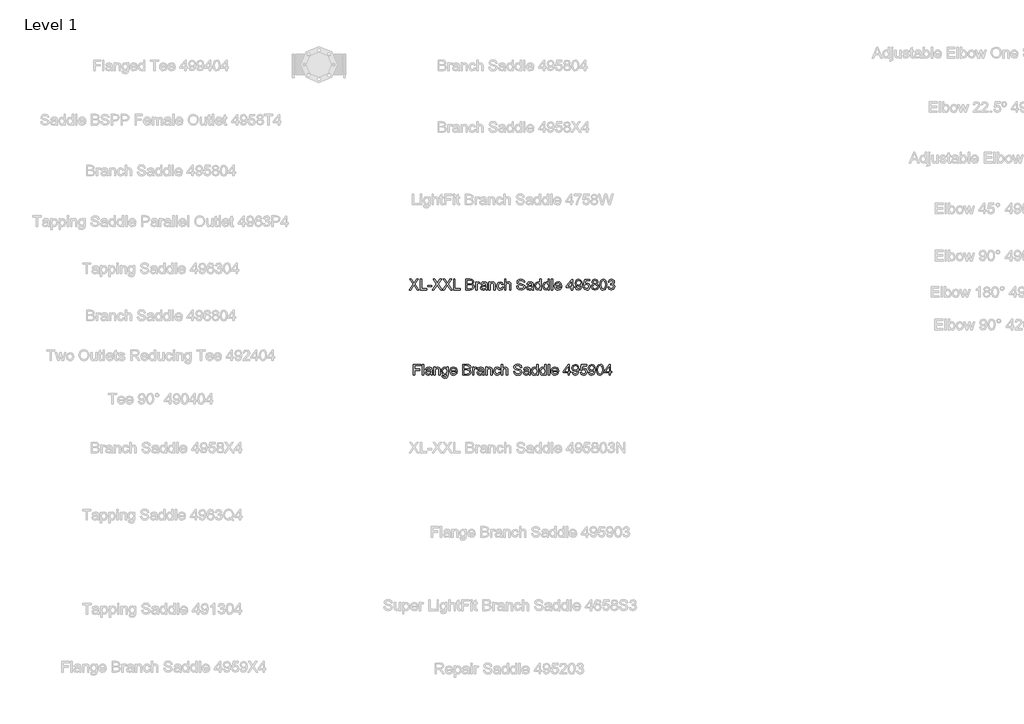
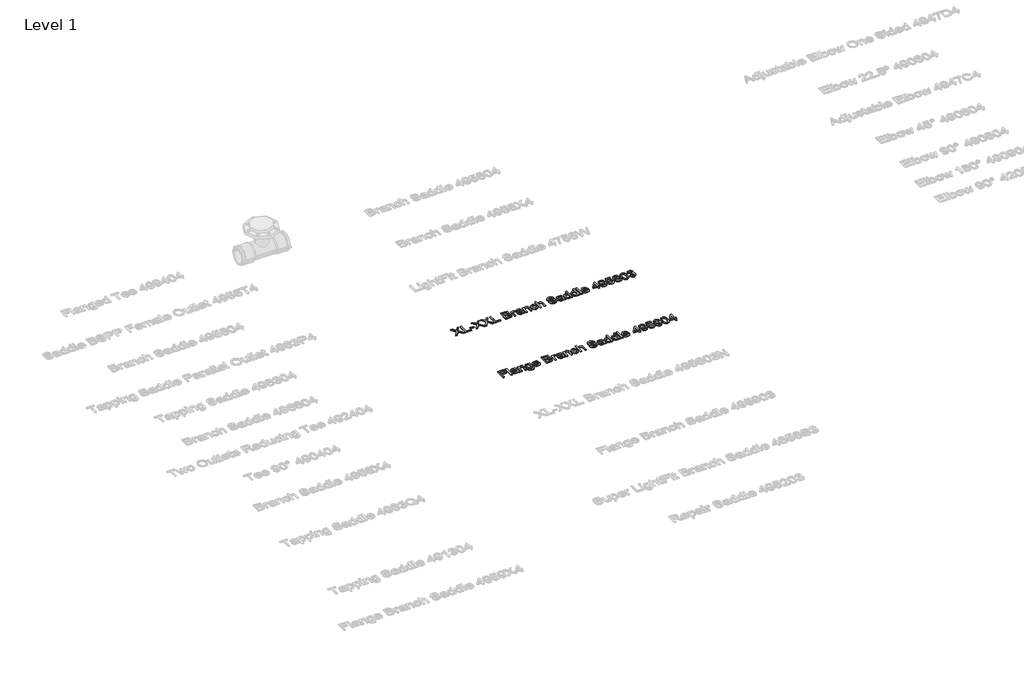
# One storey, part 13 of 41: 2 proxies.
"""IFC4 building model written with IfcOpenShell, lengths in millimetres."""

from ifc_helpers import new_model, si_unit, origin, origin_with_axes, place, context, project, spatial, polyline, outline, extrude, element, save

model = new_model("IFC4")

# Units and contexts
model_context = context("Model", 3, world=origin())
ifc_project = project(units=[si_unit("LENGTHUNIT", "METRE", prefix="MILLI")], contexts=[model_context])

# Site, building, storey
site = spatial("IfcSite", under=ifc_project)
building = spatial("IfcBuilding", under=site)
storey = spatial("IfcBuildingStorey", under=building, Name="Level 1", Elevation=0.0)

# Proxies
placement = place(None, origin())
element("IfcBuildingElementProxy", 1, Name="100 mm Arial", ObjectType="100 mm Arial", at=placement, inside=storey, context=model_context, shape_type="SweptSolid", body=[
    extrude(outline(polyline([(8453.5193072, 3257.5779735), (8453.5193072, 3316.6548966), (8493.2116149, 3316.6548966), (8493.2116149, 3309.2702812), (8460.9039226, 3309.2702812), (8460.9039226, 3291.7318197), (8488.5962303, 3291.7318197), (8488.5962303, 3284.3472043), (8460.9039226, 3284.3472043), (8460.9039226, 3257.5779735), (8453.5193072, 3257.5779735)])), origin_with_axes(), (0.0, 0.0, 1.0), 5.0),
    extrude(outline(polyline([(8502.4423841, 3257.5779735), (8502.4423841, 3316.6548966), (8509.8269995, 3316.6548966), (8509.8269995, 3257.5779735), (8502.4423841, 3257.5779735)])), origin_with_axes(), (0.0, 0.0, 1.0), 5.0),
    extrude(outline(polyline([(8548.5962303, 3263.1164351), (8541.4351726, 3258.1116274), (8533.5241149, 3256.6548966), (8522.8005572, 3260.1597043), (8519.0577687, 3269.1164351), (8520.4712303, 3274.9577812), (8524.1851726, 3279.1981658), (8529.3558456, 3281.6212428), (8535.7452687, 3282.7318197), (8548.552961, 3285.2702812), (8548.5962303, 3286.914512), (8546.5625764, 3292.3664351), (8538.3991149, 3294.5010505), (8530.927961, 3293.0803774), (8527.365461, 3288.039512), (8519.9808456, 3288.9625889), (8523.1755572, 3296.1741274), (8529.6082495, 3300.4000889), (8539.351038, 3301.8856658), (8548.3005572, 3300.5731658), (8553.3558456, 3297.2774928), (8555.6202687, 3292.2654735), (8555.9808456, 3285.8039351), (8555.9808456, 3276.6164351), (8556.3558456, 3263.7871082), (8557.8269995, 3257.5779735), (8550.4423841, 3257.5779735), (8548.5962303, 3263.1164351)]), holes=[polyline([(8548.5962303, 3277.8856658), (8536.6827687, 3275.6212428), (8530.3294033, 3274.4241274), (8527.4519995, 3272.477012), (8526.4423841, 3269.6356658), (8528.6419033, 3265.6404735), (8535.0962303, 3264.039512), (8542.5673841, 3265.8063389), (8547.3846918, 3270.0827812), (8548.552961, 3275.7943197), (8548.5962303, 3277.8856658)])]), origin_with_axes(), (0.0, 0.0, 1.0), 5.0),
    extrude(outline(polyline([(8566.1346918, 3257.5779735), (8566.1346918, 3300.9625889), (8573.5193072, 3300.9625889), (8573.5193072, 3294.9048966), (8579.1659418, 3300.1404735), (8586.8750764, 3301.8856658), (8593.8486341, 3300.4794158), (8598.6082495, 3296.7871082), (8600.8221918, 3291.3568197), (8601.2116149, 3284.2173966), (8601.2116149, 3257.5779735), (8593.8269995, 3257.5779735), (8593.8269995, 3283.2222043), (8592.976038, 3289.7558582), (8589.9688264, 3293.2101851), (8584.8991149, 3294.5010505), (8576.8870956, 3291.602012), (8573.5193072, 3280.5972043), (8573.5193072, 3257.5779735), (8566.1346918, 3257.5779735)])), origin_with_axes(), (0.0, 0.0, 1.0), 5.0),
    extrude(outline(polyline([(8609.5193072, 3253.8856658), (8616.9039226, 3252.9625889), (8619.2981533, 3249.0683582), (8626.4664226, 3247.4241274), (8634.0241149, 3249.2847043), (8637.6298841, 3254.5058582), (8638.1346918, 3263.1164351), (8626.5962303, 3257.5779735), (8618.9826485, 3259.1897524), (8613.3053649, 3264.0250889), (8608.5962303, 3279.4866274), (8610.709211, 3290.9313389), (8616.8245956, 3299.0298966), (8626.2356533, 3301.8856658), (8632.8233937, 3300.2702812), (8638.1346918, 3295.4241274), (8638.1346918, 3300.9625889), (8645.5193072, 3300.9625889), (8645.5193072, 3263.5058582), (8643.5000764, 3249.1621082), (8637.1034418, 3242.4914351), (8626.3221918, 3240.039512), (8614.0409418, 3243.4938389), (8609.5193072, 3253.8856658)]), holes=[polyline([(8615.9808456, 3279.9914351), (8619.132288, 3268.5611466), (8627.0433456, 3264.9625889), (8634.9399803, 3268.539512), (8638.1346918, 3279.7750889), (8634.8462303, 3290.7871082), (8626.927961, 3294.5010505), (8619.1755572, 3290.8448005), (8615.9808456, 3279.9914351)])]), origin_with_axes(), (0.0, 0.0, 1.0), 5.0),
    extrude(outline(polyline([(8686.9712303, 3270.5010505), (8694.2116149, 3269.5779735), (8687.4399803, 3260.0443197), (8674.8269995, 3256.6548966), (8666.162336, 3258.117036), (8659.4952687, 3262.5034543), (8655.2440668, 3269.5292957), (8653.8269995, 3278.9097043), (8655.2584899, 3288.6056178), (8659.552961, 3295.8568197), (8666.1298841, 3300.3784543), (8674.4087303, 3301.8856658), (8682.4297639, 3300.3820601), (8688.8390187, 3295.8712428), (8693.0415428, 3288.6344639), (8694.4423841, 3278.9529735), (8694.3991149, 3276.9625889), (8661.2116149, 3276.9625889), (8665.459211, 3267.3712428), (8674.9712303, 3264.039512), (8682.2116149, 3265.5827812), (8686.9712303, 3270.5010505)]), holes=[polyline([(8661.2116149, 3284.3472043), (8687.0577687, 3284.3472043), (8684.101038, 3291.039512), (8674.3798841, 3294.5010505), (8665.2861341, 3291.7390312), (8661.2116149, 3284.3472043)])]), origin_with_axes(), (0.0, 0.0, 1.0), 5.0),
    extrude(outline(polyline([(8725.8269995, 3257.5779735), (8725.8269995, 3316.6548966), (8748.3702687, 3316.6548966), (8759.4111341, 3314.9169158), (8765.9303649, 3309.5731658), (8768.288538, 3302.0154735), (8766.3053649, 3295.1140312), (8760.3125764, 3289.8856658), (8767.5890187, 3284.3760505), (8770.1346918, 3275.1885505), (8768.396711, 3267.2486466), (8764.0914226, 3261.5948005), (8757.6659418, 3258.5948005), (8748.1971918, 3257.5779735), (8725.8269995, 3257.5779735)]), holes=[polyline([(8733.2116149, 3264.9625889), (8748.3558456, 3264.9625889), (8753.8366149, 3265.2510505), (8758.4736341, 3266.8592235), (8761.5457495, 3270.1404735), (8762.7500764, 3275.1164351), (8761.3366149, 3280.8568197), (8756.757288, 3284.2823005), (8747.6346918, 3285.2702812), (8733.2116149, 3285.2702812), (8733.2116149, 3264.9625889)]), polyline([(8733.2116149, 3292.6548966), (8746.6971918, 3292.6548966), (8754.5721918, 3293.289512), (8759.3101726, 3296.0226851), (8760.9039226, 3300.8327812), (8759.4183456, 3305.6500889), (8755.163538, 3308.4986466), (8745.6731533, 3309.2702812), (8733.2116149, 3309.2702812), (8733.2116149, 3292.6548966)])]), origin_with_axes(), (0.0, 0.0, 1.0), 5.0),
    extrude(outline(polyline([(8779.365461, 3257.5779735), (8779.365461, 3300.9625889), (8785.8269995, 3300.9625889), (8785.8269995, 3294.5443197), (8790.413538, 3300.4577812), (8795.0289226, 3301.8856658), (8802.4423841, 3299.6068197), (8799.976038, 3292.9866274), (8794.7837303, 3294.5010505), (8790.6082495, 3293.0443197), (8787.9471918, 3289.0058582), (8786.7500764, 3280.3808582), (8786.7500764, 3257.5779735), (8779.365461, 3257.5779735)])), origin_with_axes(), (0.0, 0.0, 1.0), 5.0),
    extrude(outline(polyline([(8834.7500764, 3263.1164351), (8827.5890187, 3258.1116274), (8819.677961, 3256.6548966), (8808.9544033, 3260.1597043), (8805.2116149, 3269.1164351), (8806.6250764, 3274.9577812), (8810.3390187, 3279.1981658), (8815.5096918, 3281.6212428), (8821.8991149, 3282.7318197), (8834.7068072, 3285.2702812), (8834.7500764, 3286.914512), (8832.7164226, 3292.3664351), (8824.552961, 3294.5010505), (8817.0818072, 3293.0803774), (8813.5193072, 3288.039512), (8806.1346918, 3288.9625889), (8809.3294033, 3296.1741274), (8815.7620956, 3300.4000889), (8825.5048841, 3301.8856658), (8834.4544033, 3300.5731658), (8839.5096918, 3297.2774928), (8841.7741149, 3292.2654735), (8842.1346918, 3285.8039351), (8842.1346918, 3276.6164351), (8842.5096918, 3263.7871082), (8843.9808456, 3257.5779735), (8836.5962303, 3257.5779735), (8834.7500764, 3263.1164351)]), holes=[polyline([(8834.7500764, 3277.8856658), (8822.8366149, 3275.6212428), (8816.4832495, 3274.4241274), (8813.6058456, 3272.477012), (8812.5962303, 3269.6356658), (8814.7957495, 3265.6404735), (8821.2500764, 3264.039512), (8828.7212303, 3265.8063389), (8833.538538, 3270.0827812), (8834.7068072, 3275.7943197), (8834.7500764, 3277.8856658)])]), origin_with_axes(), (0.0, 0.0, 1.0), 5.0),
    extrude(outline(polyline([(8852.288538, 3257.5779735), (8852.288538, 3300.9625889), (8859.6731533, 3300.9625889), (8859.6731533, 3294.9048966), (8865.319788, 3300.1404735), (8873.0289226, 3301.8856658), (8880.0024803, 3300.4794158), (8884.7620956, 3296.7871082), (8886.976038, 3291.3568197), (8887.365461, 3284.2173966), (8887.365461, 3257.5779735), (8879.9808456, 3257.5779735), (8879.9808456, 3283.2222043), (8879.1298841, 3289.7558582), (8876.1226726, 3293.2101851), (8871.052961, 3294.5010505), (8863.0409418, 3291.602012), (8859.6731533, 3280.5972043), (8859.6731533, 3257.5779735), (8852.288538, 3257.5779735)])), origin_with_axes(), (0.0, 0.0, 1.0), 5.0),
    extrude(outline(polyline([(8925.2116149, 3273.2702812), (8932.5962303, 3272.3472043), (8926.6683456, 3260.8159543), (8914.9568072, 3256.6548966), (8907.1016389, 3258.1062187), (8900.959211, 3262.4601851), (8896.9946678, 3269.5256899), (8895.6731533, 3279.1116274), (8897.9303649, 3291.3784543), (8904.8101726, 3299.2606658), (8914.8558456, 3301.8856658), (8926.084211, 3298.2798966), (8931.6731533, 3288.039512), (8924.288538, 3287.1164351), (8920.8630572, 3292.6476851), (8914.913538, 3294.5010505), (8906.3534418, 3290.852012), (8903.0577687, 3279.3135505), (8906.2813264, 3267.6669158), (8914.7116149, 3264.039512), (8921.6707495, 3266.3039351), (8925.2116149, 3273.2702812)])), origin_with_axes(), (0.0, 0.0, 1.0), 5.0),
    extrude(outline(polyline([(8939.0577687, 3257.5779735), (8939.0577687, 3316.6548966), (8946.4423841, 3316.6548966), (8946.4423841, 3294.9337428), (8952.2007976, 3300.1476851), (8959.2933456, 3301.8856658), (8967.5866149, 3299.9890312), (8972.6202687, 3294.7462428), (8974.1346918, 3285.039512), (8974.1346918, 3257.5779735), (8966.7500764, 3257.5779735), (8966.7500764, 3284.2750889), (8964.3991149, 3292.0635505), (8957.7356533, 3294.5010505), (8951.6851726, 3292.8568197), (8947.646711, 3288.4000889), (8946.4423841, 3280.6260505), (8946.4423841, 3257.5779735), (8939.0577687, 3257.5779735)])), origin_with_axes(), (0.0, 0.0, 1.0), 5.0),
    extrude(outline(polyline([(9005.5193072, 3277.8856658), (9012.9039226, 3277.8856658), (9015.2837303, 3270.4938389), (9021.0962303, 3265.820762), (9029.9519995, 3264.039512), (9037.6683456, 3265.3880697), (9042.6515187, 3269.0948005), (9044.288538, 3274.0491274), (9043.0625764, 3278.6573005), (9038.0433456, 3282.0106658), (9027.2909418, 3284.8303774), (9015.7164226, 3288.4722043), (9009.4351726, 3293.9673966), (9007.365461, 3301.3087428), (9009.9255572, 3309.6669158), (9017.4039226, 3315.5659543), (9028.351038, 3317.5779735), (9040.0337303, 3315.4722043), (9047.8221918, 3309.2847043), (9050.7500764, 3300.039512), (9043.365461, 3300.039512), (9039.1827687, 3307.6260505), (9028.6394995, 3310.1933582), (9018.0673841, 3307.6548966), (9014.7500764, 3301.5250889), (9017.101038, 3296.4048966), (9029.1587303, 3292.2798966), (9042.226038, 3288.5731658), (9049.3726726, 3282.5875889), (9051.6731533, 3274.2366274), (9049.0265187, 3265.4024928), (9041.4111341, 3258.9553774), (9030.240461, 3256.6548966), (9017.0505572, 3259.1356658), (9008.7068072, 3266.6068197), (9005.5193072, 3277.8856658)])), origin_with_axes(), (0.0, 0.0, 1.0), 5.0),
    extrude(outline(polyline([(9089.5193072, 3263.1164351), (9082.3582495, 3258.1116274), (9074.4471918, 3256.6548966), (9063.7236341, 3260.1597043), (9059.9808456, 3269.1164351), (9061.3943072, 3274.9577812), (9065.1082495, 3279.1981658), (9070.2789226, 3281.6212428), (9076.6683456, 3282.7318197), (9089.476038, 3285.2702812), (9089.5193072, 3286.914512), (9087.4856533, 3292.3664351), (9079.3221918, 3294.5010505), (9071.851038, 3293.0803774), (9068.288538, 3288.039512), (9060.9039226, 3288.9625889), (9064.0986341, 3296.1741274), (9070.5313264, 3300.4000889), (9080.2741149, 3301.8856658), (9089.2236341, 3300.5731658), (9094.2789226, 3297.2774928), (9096.5433456, 3292.2654735), (9096.9039226, 3285.8039351), (9096.9039226, 3276.6164351), (9097.2789226, 3263.7871082), (9098.7500764, 3257.5779735), (9091.365461, 3257.5779735), (9089.5193072, 3263.1164351)]), holes=[polyline([(9089.5193072, 3277.8856658), (9077.6058456, 3275.6212428), (9071.2524803, 3274.4241274), (9068.3750764, 3272.477012), (9067.365461, 3269.6356658), (9069.5649803, 3265.6404735), (9076.0193072, 3264.039512), (9083.490461, 3265.8063389), (9088.3077687, 3270.0827812), (9089.476038, 3275.7943197), (9089.5193072, 3277.8856658)])]), origin_with_axes(), (0.0, 0.0, 1.0), 5.0),
    extrude(outline(polyline([(9133.8269995, 3257.5779735), (9133.8269995, 3264.5443197), (9128.9411822, 3258.6272524), (9122.1875764, 3256.6548966), (9113.0433456, 3259.5106658), (9106.5818072, 3267.4794158), (9104.288538, 3279.227012), (9106.4015187, 3290.9818197), (9112.7332495, 3299.0731658), (9122.1587303, 3301.8856658), (9128.9664226, 3299.8736466), (9133.8269995, 3294.6452812), (9133.8269995, 3316.6548966), (9141.2116149, 3316.6548966), (9141.2116149, 3257.5779735), (9133.8269995, 3257.5779735)]), holes=[polyline([(9111.6731533, 3279.2558582), (9115.0048841, 3267.8255697), (9122.865461, 3264.039512), (9130.632288, 3267.6524928), (9133.8269995, 3278.6933582), (9130.5745956, 3290.6789351), (9122.5625764, 3294.5010505), (9114.788538, 3290.8303774), (9111.6731533, 3279.2558582)])]), origin_with_axes(), (0.0, 0.0, 1.0), 5.0),
    extrude(outline(polyline([(9179.0577687, 3257.5779735), (9179.0577687, 3264.5443197), (9174.1719514, 3258.6272524), (9167.4183456, 3256.6548966), (9158.2741149, 3259.5106658), (9151.8125764, 3267.4794158), (9149.5193072, 3279.227012), (9151.632288, 3290.9818197), (9157.9640187, 3299.0731658), (9167.3894995, 3301.8856658), (9174.1971918, 3299.8736466), (9179.0577687, 3294.6452812), (9179.0577687, 3316.6548966), (9186.4423841, 3316.6548966), (9186.4423841, 3257.5779735), (9179.0577687, 3257.5779735)]), holes=[polyline([(9156.9039226, 3279.2558582), (9160.2356533, 3267.8255697), (9168.0962303, 3264.039512), (9175.8630572, 3267.6524928), (9179.0577687, 3278.6933582), (9175.8053649, 3290.6789351), (9167.7933456, 3294.5010505), (9160.0193072, 3290.8303774), (9156.9039226, 3279.2558582)])]), origin_with_axes(), (0.0, 0.0, 1.0), 5.0),
    extrude(outline(polyline([(9197.5193072, 3257.5779735), (9197.5193072, 3316.6548966), (9204.9039226, 3316.6548966), (9204.9039226, 3257.5779735), (9197.5193072, 3257.5779735)])), origin_with_axes(), (0.0, 0.0, 1.0), 5.0),
    extrude(outline(polyline([(9246.3558456, 3270.5010505), (9253.5962303, 3269.5779735), (9246.8245956, 3260.0443197), (9234.2116149, 3256.6548966), (9225.5469514, 3258.117036), (9218.8798841, 3262.5034543), (9214.6286822, 3269.5292957), (9213.2116149, 3278.9097043), (9214.6431053, 3288.6056178), (9218.9375764, 3295.8568197), (9225.5144995, 3300.3784543), (9233.7933456, 3301.8856658), (9241.8143793, 3300.3820601), (9248.2236341, 3295.8712428), (9252.4261581, 3288.6344639), (9253.8269995, 3278.9529735), (9253.7837303, 3276.9625889), (9220.5962303, 3276.9625889), (9224.8438264, 3267.3712428), (9234.3558456, 3264.039512), (9241.5962303, 3265.5827812), (9246.3558456, 3270.5010505)]), holes=[polyline([(9220.5962303, 3284.3472043), (9246.4423841, 3284.3472043), (9243.4856533, 3291.039512), (9233.7644995, 3294.5010505), (9224.6707495, 3291.7390312), (9220.5962303, 3284.3472043)])]), origin_with_axes(), (0.0, 0.0, 1.0), 5.0),
    extrude(outline(polyline([(9306.4423841, 3257.5779735), (9306.4423841, 3271.4241274), (9279.6731533, 3271.4241274), (9279.6731533, 3278.8087428), (9308.288538, 3315.7318197), (9313.8269995, 3315.7318197), (9313.8269995, 3278.8087428), (9321.2116149, 3278.8087428), (9321.2116149, 3271.4241274), (9313.8269995, 3271.4241274), (9313.8269995, 3257.5779735), (9306.4423841, 3257.5779735)]), holes=[polyline([(9306.4423841, 3278.8087428), (9306.4423841, 3301.6260505), (9288.7596918, 3278.8087428), (9306.4423841, 3278.8087428)])]), origin_with_axes(), (0.0, 0.0, 1.0), 5.0),
    extrude(outline(polyline([(9328.5962303, 3272.3472043), (9335.9808456, 3273.2702812), (9339.2981533, 3266.2246082), (9345.5866149, 3264.039512), (9351.5649803, 3265.445762), (9355.6178649, 3269.2029735), (9358.0337303, 3275.6212428), (9359.101038, 3284.1885505), (9353.1515187, 3280.0347043), (9345.052961, 3277.8856658), (9332.7140187, 3283.1356658), (9327.6731533, 3296.9673966), (9332.959211, 3311.2462428), (9346.2068072, 3316.6548966), (9356.7284418, 3313.5683582), (9363.9688264, 3304.7702812), (9366.4423841, 3288.2414351), (9363.976038, 3270.3063389), (9356.6419033, 3260.1452812), (9345.240461, 3256.6548966), (9333.8894995, 3260.7726851), (9328.5962303, 3272.3472043)]), holes=[polyline([(9359.0577687, 3297.1404735), (9355.8702687, 3305.9962428), (9347.4039226, 3309.2702812), (9338.5193072, 3305.7438389), (9335.0577687, 3296.6068197), (9338.3318072, 3288.4217235), (9347.2019995, 3285.2702812), (9355.7188264, 3288.4217235), (9359.0577687, 3297.1404735)])]), origin_with_axes(), (0.0, 0.0, 1.0), 5.0),
    extrude(outline(polyline([(9372.9039226, 3273.2702812), (9380.288538, 3274.1933582), (9384.0096918, 3266.5851851), (9391.726038, 3264.039512), (9400.9856533, 3267.5803774), (9404.288538, 3276.977012), (9401.194788, 3285.7462428), (9391.8414226, 3288.9625889), (9385.3582495, 3287.6789351), (9381.2116149, 3284.3472043), (9373.8269995, 3285.2702812), (9380.288538, 3315.7318197), (9408.9039226, 3315.7318197), (9408.9039226, 3308.3472043), (9386.2596918, 3308.3472043), (9383.101038, 3292.0779735), (9393.9039226, 3296.3472043), (9406.5313264, 3291.0539351), (9411.6731533, 3277.4385505), (9407.0433456, 3263.7366274), (9400.3943072, 3258.4253293), (9391.6971918, 3256.6548966), (9378.6659418, 3261.2053774), (9372.9039226, 3273.2702812)])), origin_with_axes(), (0.0, 0.0, 1.0), 5.0),
    extrude(outline(polyline([(9419.0577687, 3272.3472043), (9426.4423841, 3273.2702812), (9429.7596918, 3266.2246082), (9436.0481533, 3264.039512), (9442.0265187, 3265.445762), (9446.0794033, 3269.2029735), (9448.4952687, 3275.6212428), (9449.5625764, 3284.1885505), (9443.6130572, 3280.0347043), (9435.5144995, 3277.8856658), (9423.1755572, 3283.1356658), (9418.1346918, 3296.9673966), (9423.4207495, 3311.2462428), (9436.6683456, 3316.6548966), (9447.1899803, 3313.5683582), (9454.4303649, 3304.7702812), (9456.9039226, 3288.2414351), (9454.4375764, 3270.3063389), (9447.1034418, 3260.1452812), (9435.7019995, 3256.6548966), (9424.351038, 3260.7726851), (9419.0577687, 3272.3472043)]), holes=[polyline([(9449.5193072, 3297.1404735), (9446.3318072, 3305.9962428), (9437.865461, 3309.2702812), (9428.9808456, 3305.7438389), (9425.5193072, 3296.6068197), (9428.7933456, 3288.4217235), (9437.663538, 3285.2702812), (9446.1803649, 3288.4217235), (9449.5193072, 3297.1404735)])]), origin_with_axes(), (0.0, 0.0, 1.0), 5.0),
    extrude(outline(polyline([(9463.365461, 3286.6404735), (9465.5361341, 3303.6380697), (9471.9832495, 3313.4385505), (9482.7500764, 3316.6548966), (9491.3750764, 3314.7510505), (9497.3318072, 3309.2630697), (9500.7933456, 3300.5226851), (9502.1346918, 3286.6404735), (9499.9856533, 3269.7149928), (9493.5601726, 3259.8928774), (9482.7500764, 3256.6548966), (9475.0769995, 3258.0611466), (9469.2500764, 3262.2798966), (9464.8366149, 3272.2714832), (9463.365461, 3286.6404735)]), holes=[polyline([(9470.7500764, 3286.6548966), (9474.2116149, 3268.3159543), (9482.7500764, 3264.039512), (9491.288538, 3268.3303774), (9494.7500764, 3286.6548966), (9491.4039226, 3304.7847043), (9482.663538, 3309.2702812), (9474.3269995, 3305.3183582), (9470.7500764, 3286.6548966)])]), origin_with_axes(), (0.0, 0.0, 1.0), 5.0),
    extrude(outline(polyline([(9532.5962303, 3257.5779735), (9532.5962303, 3271.4241274), (9505.8269995, 3271.4241274), (9505.8269995, 3278.8087428), (9534.4423841, 3315.7318197), (9539.9808456, 3315.7318197), (9539.9808456, 3278.8087428), (9547.365461, 3278.8087428), (9547.365461, 3271.4241274), (9539.9808456, 3271.4241274), (9539.9808456, 3257.5779735), (9532.5962303, 3257.5779735)]), holes=[polyline([(9532.5962303, 3278.8087428), (9532.5962303, 3301.6260505), (9514.913538, 3278.8087428), (9532.5962303, 3278.8087428)])]), origin_with_axes(), (0.0, 0.0, 1.0), 5.0),
])
element("IfcBuildingElementProxy", 2, Name="100 mm Arial", ObjectType="100 mm Arial", at=placement, inside=storey, context=model_context, shape_type="SweptSolid", body=[
    extrude(outline(polyline([(8429.5193072, 3727.5779735), (8452.2933456, 3759.7702812), (8433.2116149, 3786.6548966), (8442.0673841, 3786.6548966), (8452.8125764, 3771.5250889), (8456.4327687, 3765.6260505), (8460.6731533, 3771.6260505), (8471.302961, 3786.6548966), (8480.288538, 3786.6548966), (8461.2068072, 3759.6837428), (8483.9808456, 3727.5779735), (8475.1250764, 3727.5779735), (8459.9519995, 3748.9818197), (8456.7933456, 3753.4241274), (8453.3173841, 3748.5491274), (8438.5048841, 3727.5779735), (8429.5193072, 3727.5779735)])), origin_with_axes(), (0.0, 0.0, 1.0), 5.0),
    extrude(outline(polyline([(8491.365461, 3727.5779735), (8491.365461, 3786.6548966), (8498.7500764, 3786.6548966), (8498.7500764, 3734.9625889), (8528.288538, 3734.9625889), (8528.288538, 3727.5779735), (8491.365461, 3727.5779735)])), origin_with_axes(), (0.0, 0.0, 1.0), 5.0),
    extrude(outline(polyline([(8531.9808456, 3745.1164351), (8531.9808456, 3752.5010505), (8555.0577687, 3752.5010505), (8555.0577687, 3745.1164351), (8531.9808456, 3745.1164351)])), origin_with_axes(), (0.0, 0.0, 1.0), 5.0),
    extrude(outline(polyline([(8557.8269995, 3727.5779735), (8580.601038, 3759.7702812), (8561.5193072, 3786.6548966), (8570.3750764, 3786.6548966), (8581.1202687, 3771.5250889), (8584.740461, 3765.6260505), (8588.9808456, 3771.6260505), (8599.6106533, 3786.6548966), (8608.5962303, 3786.6548966), (8589.5144995, 3759.6837428), (8612.288538, 3727.5779735), (8603.4327687, 3727.5779735), (8588.2596918, 3748.9818197), (8585.101038, 3753.4241274), (8581.6250764, 3748.5491274), (8566.8125764, 3727.5779735), (8557.8269995, 3727.5779735)])), origin_with_axes(), (0.0, 0.0, 1.0), 5.0),
    extrude(outline(polyline([(8613.2116149, 3727.5779735), (8635.9856533, 3759.7702812), (8616.9039226, 3786.6548966), (8625.7596918, 3786.6548966), (8636.5048841, 3771.5250889), (8640.1250764, 3765.6260505), (8644.365461, 3771.6260505), (8654.9952687, 3786.6548966), (8663.9808456, 3786.6548966), (8644.8991149, 3759.6837428), (8667.6731533, 3727.5779735), (8658.8173841, 3727.5779735), (8643.6443072, 3748.9818197), (8640.4856533, 3753.4241274), (8637.0096918, 3748.5491274), (8622.1971918, 3727.5779735), (8613.2116149, 3727.5779735)])), origin_with_axes(), (0.0, 0.0, 1.0), 5.0),
    extrude(outline(polyline([(8675.0577687, 3727.5779735), (8675.0577687, 3786.6548966), (8682.4423841, 3786.6548966), (8682.4423841, 3734.9625889), (8711.9808456, 3734.9625889), (8711.9808456, 3727.5779735), (8675.0577687, 3727.5779735)])), origin_with_axes(), (0.0, 0.0, 1.0), 5.0),
    extrude(outline(polyline([(8743.365461, 3727.5779735), (8743.365461, 3786.6548966), (8765.9087303, 3786.6548966), (8776.9495956, 3784.9169158), (8783.4688264, 3779.5731658), (8785.8269995, 3772.0154735), (8783.8438264, 3765.1140312), (8777.851038, 3759.8856658), (8785.1274803, 3754.3760505), (8787.6731533, 3745.1885505), (8785.9351726, 3737.2486466), (8781.6298841, 3731.5948005), (8775.2044033, 3728.5948005), (8765.7356533, 3727.5779735), (8743.365461, 3727.5779735)]), holes=[polyline([(8750.7500764, 3762.6548966), (8764.2356533, 3762.6548966), (8772.1106533, 3763.289512), (8776.8486341, 3766.0226851), (8778.4423841, 3770.8327812), (8776.9568072, 3775.6500889), (8772.7019995, 3778.4986466), (8763.2116149, 3779.2702812), (8750.7500764, 3779.2702812), (8750.7500764, 3762.6548966)]), polyline([(8750.7500764, 3734.9625889), (8765.8943072, 3734.9625889), (8771.3750764, 3735.2510505), (8776.0120956, 3736.8592235), (8779.084211, 3740.1404735), (8780.288538, 3745.1164351), (8778.8750764, 3750.8568197), (8774.2957495, 3754.2823005), (8765.1731533, 3755.2702812), (8750.7500764, 3755.2702812), (8750.7500764, 3734.9625889)])]), origin_with_axes(), (0.0, 0.0, 1.0), 5.0),
    extrude(outline(polyline([(8796.9039226, 3727.5779735), (8796.9039226, 3770.9625889), (8803.365461, 3770.9625889), (8803.365461, 3764.5443197), (8807.9519995, 3770.4577812), (8812.5673841, 3771.8856658), (8819.9808456, 3769.6068197), (8817.5144995, 3762.9866274), (8812.3221918, 3764.5010505), (8808.146711, 3763.0443197), (8805.4856533, 3759.0058582), (8804.288538, 3750.3808582), (8804.288538, 3727.5779735), (8796.9039226, 3727.5779735)])), origin_with_axes(), (0.0, 0.0, 1.0), 5.0),
    extrude(outline(polyline([(8852.288538, 3733.1164351), (8845.1274803, 3728.1116274), (8837.2164226, 3726.6548966), (8826.4928649, 3730.1597043), (8822.7500764, 3739.1164351), (8824.163538, 3744.9577812), (8827.8774803, 3749.1981658), (8833.0481533, 3751.6212428), (8839.4375764, 3752.7318197), (8852.2452687, 3755.2702812), (8852.288538, 3756.914512), (8850.2548841, 3762.3664351), (8842.0914226, 3764.5010505), (8834.6202687, 3763.0803774), (8831.0577687, 3758.039512), (8823.6731533, 3758.9625889), (8826.8678649, 3766.1741274), (8833.3005572, 3770.4000889), (8843.0433456, 3771.8856658), (8851.9928649, 3770.5731658), (8857.0481533, 3767.2774928), (8859.3125764, 3762.2654735), (8859.6731533, 3755.8039351), (8859.6731533, 3746.6164351), (8860.0481533, 3733.7871082), (8861.5193072, 3727.5779735), (8854.1346918, 3727.5779735), (8852.288538, 3733.1164351)]), holes=[polyline([(8852.288538, 3747.8856658), (8840.3750764, 3745.6212428), (8834.021711, 3744.4241274), (8831.1443072, 3742.477012), (8830.1346918, 3739.6356658), (8832.334211, 3735.6404735), (8838.788538, 3734.039512), (8846.2596918, 3735.8063389), (8851.0769995, 3740.0827812), (8852.2452687, 3745.7943197), (8852.288538, 3747.8856658)])]), origin_with_axes(), (0.0, 0.0, 1.0), 5.0),
    extrude(outline(polyline([(8869.8269995, 3727.5779735), (8869.8269995, 3770.9625889), (8877.2116149, 3770.9625889), (8877.2116149, 3764.9048966), (8882.8582495, 3770.1404735), (8890.5673841, 3771.8856658), (8897.5409418, 3770.4794158), (8902.3005572, 3766.7871082), (8904.5144995, 3761.3568197), (8904.9039226, 3754.2173966), (8904.9039226, 3727.5779735), (8897.5193072, 3727.5779735), (8897.5193072, 3753.2222043), (8896.6683456, 3759.7558582), (8893.6611341, 3763.2101851), (8888.5914226, 3764.5010505), (8880.5794033, 3761.602012), (8877.2116149, 3750.5972043), (8877.2116149, 3727.5779735), (8869.8269995, 3727.5779735)])), origin_with_axes(), (0.0, 0.0, 1.0), 5.0),
    extrude(outline(polyline([(8942.7500764, 3743.2702812), (8950.1346918, 3742.3472043), (8944.2068072, 3730.8159543), (8932.4952687, 3726.6548966), (8924.6401005, 3728.1062187), (8918.4976726, 3732.4601851), (8914.5331293, 3739.5256899), (8913.2116149, 3749.1116274), (8915.4688264, 3761.3784543), (8922.3486341, 3769.2606658), (8932.3943072, 3771.8856658), (8943.6226726, 3768.2798966), (8949.2116149, 3758.039512), (8941.8269995, 3757.1164351), (8938.4015187, 3762.6476851), (8932.4519995, 3764.5010505), (8923.8919033, 3760.852012), (8920.5962303, 3749.3135505), (8923.819788, 3737.6669158), (8932.2500764, 3734.039512), (8939.209211, 3736.3039351), (8942.7500764, 3743.2702812)])), origin_with_axes(), (0.0, 0.0, 1.0), 5.0),
    extrude(outline(polyline([(8956.5962303, 3727.5779735), (8956.5962303, 3786.6548966), (8963.9808456, 3786.6548966), (8963.9808456, 3764.9337428), (8969.7392591, 3770.1476851), (8976.8318072, 3771.8856658), (8985.1250764, 3769.9890312), (8990.1587303, 3764.7462428), (8991.6731533, 3755.039512), (8991.6731533, 3727.5779735), (8984.288538, 3727.5779735), (8984.288538, 3754.2750889), (8981.9375764, 3762.0635505), (8975.2741149, 3764.5010505), (8969.2236341, 3762.8568197), (8965.1851726, 3758.4000889), (8963.9808456, 3750.6260505), (8963.9808456, 3727.5779735), (8956.5962303, 3727.5779735)])), origin_with_axes(), (0.0, 0.0, 1.0), 5.0),
    extrude(outline(polyline([(9023.0577687, 3747.8856658), (9030.4423841, 3747.8856658), (9032.8221918, 3740.4938389), (9038.6346918, 3735.820762), (9047.490461, 3734.039512), (9055.2068072, 3735.3880697), (9060.1899803, 3739.0948005), (9061.8269995, 3744.0491274), (9060.601038, 3748.6573005), (9055.5818072, 3752.0106658), (9044.8294033, 3754.8303774), (9033.2548841, 3758.4722043), (9026.9736341, 3763.9673966), (9024.9039226, 3771.3087428), (9027.4640187, 3779.6669158), (9034.9423841, 3785.5659543), (9045.8894995, 3787.5779735), (9057.5721918, 3785.4722043), (9065.3606533, 3779.2847043), (9068.288538, 3770.039512), (9060.9039226, 3770.039512), (9056.7212303, 3777.6260505), (9046.177961, 3780.1933582), (9035.6058456, 3777.6548966), (9032.288538, 3771.5250889), (9034.6394995, 3766.4048966), (9046.6971918, 3762.2798966), (9059.7644995, 3758.5731658), (9066.9111341, 3752.5875889), (9069.2116149, 3744.2366274), (9066.5649803, 3735.4024928), (9058.9495956, 3728.9553774), (9047.7789226, 3726.6548966), (9034.5890187, 3729.1356658), (9026.2452687, 3736.6068197), (9023.0577687, 3747.8856658)])), origin_with_axes(), (0.0, 0.0, 1.0), 5.0),
    extrude(outline(polyline([(9107.0577687, 3733.1164351), (9099.896711, 3728.1116274), (9091.9856533, 3726.6548966), (9081.2620956, 3730.1597043), (9077.5193072, 3739.1164351), (9078.9327687, 3744.9577812), (9082.646711, 3749.1981658), (9087.8173841, 3751.6212428), (9094.2068072, 3752.7318197), (9107.0144995, 3755.2702812), (9107.0577687, 3756.914512), (9105.0241149, 3762.3664351), (9096.8606533, 3764.5010505), (9089.3894995, 3763.0803774), (9085.8269995, 3758.039512), (9078.4423841, 3758.9625889), (9081.6370956, 3766.1741274), (9088.069788, 3770.4000889), (9097.8125764, 3771.8856658), (9106.7620956, 3770.5731658), (9111.8173841, 3767.2774928), (9114.0818072, 3762.2654735), (9114.4423841, 3755.8039351), (9114.4423841, 3746.6164351), (9114.8173841, 3733.7871082), (9116.288538, 3727.5779735), (9108.9039226, 3727.5779735), (9107.0577687, 3733.1164351)]), holes=[polyline([(9107.0577687, 3747.8856658), (9095.1443072, 3745.6212428), (9088.7909418, 3744.4241274), (9085.913538, 3742.477012), (9084.9039226, 3739.6356658), (9087.1034418, 3735.6404735), (9093.5577687, 3734.039512), (9101.0289226, 3735.8063389), (9105.8462303, 3740.0827812), (9107.0144995, 3745.7943197), (9107.0577687, 3747.8856658)])]), origin_with_axes(), (0.0, 0.0, 1.0), 5.0),
    extrude(outline(polyline([(9151.365461, 3727.5779735), (9151.365461, 3734.5443197), (9146.4796437, 3728.6272524), (9139.726038, 3726.6548966), (9130.5818072, 3729.5106658), (9124.1202687, 3737.4794158), (9121.8269995, 3749.227012), (9123.9399803, 3760.9818197), (9130.271711, 3769.0731658), (9139.6971918, 3771.8856658), (9146.5048841, 3769.8736466), (9151.365461, 3764.6452812), (9151.365461, 3786.6548966), (9158.7500764, 3786.6548966), (9158.7500764, 3727.5779735), (9151.365461, 3727.5779735)]), holes=[polyline([(9129.2116149, 3749.2558582), (9132.5433456, 3737.8255697), (9140.4039226, 3734.039512), (9148.1707495, 3737.6524928), (9151.365461, 3748.6933582), (9148.1130572, 3760.6789351), (9140.101038, 3764.5010505), (9132.3269995, 3760.8303774), (9129.2116149, 3749.2558582)])]), origin_with_axes(), (0.0, 0.0, 1.0), 5.0),
    extrude(outline(polyline([(9196.5962303, 3727.5779735), (9196.5962303, 3734.5443197), (9191.710413, 3728.6272524), (9184.9568072, 3726.6548966), (9175.8125764, 3729.5106658), (9169.351038, 3737.4794158), (9167.0577687, 3749.227012), (9169.1707495, 3760.9818197), (9175.5024803, 3769.0731658), (9184.927961, 3771.8856658), (9191.7356533, 3769.8736466), (9196.5962303, 3764.6452812), (9196.5962303, 3786.6548966), (9203.9808456, 3786.6548966), (9203.9808456, 3727.5779735), (9196.5962303, 3727.5779735)]), holes=[polyline([(9174.4423841, 3749.2558582), (9177.7741149, 3737.8255697), (9185.6346918, 3734.039512), (9193.4015187, 3737.6524928), (9196.5962303, 3748.6933582), (9193.3438264, 3760.6789351), (9185.3318072, 3764.5010505), (9177.5577687, 3760.8303774), (9174.4423841, 3749.2558582)])]), origin_with_axes(), (0.0, 0.0, 1.0), 5.0),
    extrude(outline(polyline([(9215.0577687, 3727.5779735), (9215.0577687, 3786.6548966), (9222.4423841, 3786.6548966), (9222.4423841, 3727.5779735), (9215.0577687, 3727.5779735)])), origin_with_axes(), (0.0, 0.0, 1.0), 5.0),
    extrude(outline(polyline([(9263.8943072, 3740.5010505), (9271.1346918, 3739.5779735), (9264.3630572, 3730.0443197), (9251.7500764, 3726.6548966), (9243.085413, 3728.117036), (9236.4183456, 3732.5034543), (9232.1671437, 3739.5292957), (9230.7500764, 3748.9097043), (9232.1815668, 3758.6056178), (9236.476038, 3765.8568197), (9243.052961, 3770.3784543), (9251.3318072, 3771.8856658), (9259.3528408, 3770.3820601), (9265.7620956, 3765.8712428), (9269.9646197, 3758.6344639), (9271.365461, 3748.9529735), (9271.3221918, 3746.9625889), (9238.1346918, 3746.9625889), (9242.382288, 3737.3712428), (9251.8943072, 3734.039512), (9259.1346918, 3735.5827812), (9263.8943072, 3740.5010505)]), holes=[polyline([(9238.1346918, 3754.3472043), (9263.9808456, 3754.3472043), (9261.0241149, 3761.039512), (9251.302961, 3764.5010505), (9242.209211, 3761.7390312), (9238.1346918, 3754.3472043)])]), origin_with_axes(), (0.0, 0.0, 1.0), 5.0),
    extrude(outline(polyline([(9323.9808456, 3727.5779735), (9323.9808456, 3741.4241274), (9297.2116149, 3741.4241274), (9297.2116149, 3748.8087428), (9325.8269995, 3785.7318197), (9331.365461, 3785.7318197), (9331.365461, 3748.8087428), (9338.7500764, 3748.8087428), (9338.7500764, 3741.4241274), (9331.365461, 3741.4241274), (9331.365461, 3727.5779735), (9323.9808456, 3727.5779735)]), holes=[polyline([(9323.9808456, 3748.8087428), (9323.9808456, 3771.6260505), (9306.2981533, 3748.8087428), (9323.9808456, 3748.8087428)])]), origin_with_axes(), (0.0, 0.0, 1.0), 5.0),
    extrude(outline(polyline([(9346.1346918, 3742.3472043), (9353.5193072, 3743.2702812), (9356.8366149, 3736.2246082), (9363.1250764, 3734.039512), (9369.1034418, 3735.445762), (9373.1563264, 3739.2029735), (9375.5721918, 3745.6212428), (9376.6394995, 3754.1885505), (9370.6899803, 3750.0347043), (9362.5914226, 3747.8856658), (9350.2524803, 3753.1356658), (9345.2116149, 3766.9673966), (9350.4976726, 3781.2462428), (9363.7452687, 3786.6548966), (9374.2669033, 3783.5683582), (9381.507288, 3774.7702812), (9383.9808456, 3758.2414351), (9381.5144995, 3740.3063389), (9374.1803649, 3730.1452812), (9362.7789226, 3726.6548966), (9351.427961, 3730.7726851), (9346.1346918, 3742.3472043)]), holes=[polyline([(9376.5962303, 3767.1404735), (9373.4087303, 3775.9962428), (9364.9423841, 3779.2702812), (9356.0577687, 3775.7438389), (9352.5962303, 3766.6068197), (9355.8702687, 3758.4217235), (9364.740461, 3755.2702812), (9373.257288, 3758.4217235), (9376.5962303, 3767.1404735)])]), origin_with_axes(), (0.0, 0.0, 1.0), 5.0),
    extrude(outline(polyline([(9390.4423841, 3743.2702812), (9397.8269995, 3744.1933582), (9401.5481533, 3736.5851851), (9409.2644995, 3734.039512), (9418.5241149, 3737.5803774), (9421.8269995, 3746.977012), (9418.7332495, 3755.7462428), (9409.3798841, 3758.9625889), (9402.896711, 3757.6789351), (9398.7500764, 3754.3472043), (9391.365461, 3755.2702812), (9397.8269995, 3785.7318197), (9426.4423841, 3785.7318197), (9426.4423841, 3778.3472043), (9403.7981533, 3778.3472043), (9400.6394995, 3762.0779735), (9411.4423841, 3766.3472043), (9424.069788, 3761.0539351), (9429.2116149, 3747.4385505), (9424.5818072, 3733.7366274), (9417.9327687, 3728.4253293), (9409.2356533, 3726.6548966), (9396.2044033, 3731.2053774), (9390.4423841, 3743.2702812)])), origin_with_axes(), (0.0, 0.0, 1.0), 5.0),
    extrude(outline(polyline([(9446.4327687, 3760.1164351), (9439.7044033, 3764.7029735), (9437.5193072, 3771.8423966), (9442.2789226, 3782.3856658), (9454.9568072, 3786.6548966), (9467.7500764, 3782.2847043), (9472.5962303, 3771.6404735), (9470.4399803, 3764.6813389), (9463.8991149, 3760.1164351), (9471.7524803, 3754.3255697), (9474.4423841, 3744.7702812), (9469.1058456, 3731.8760505), (9455.0577687, 3726.6548966), (9441.0096918, 3731.8976851), (9435.6731533, 3744.9722043), (9438.4712303, 3754.7510505), (9446.4327687, 3760.1164351)]), holes=[polyline([(9444.9039226, 3771.6260505), (9447.521711, 3765.8279735), (9455.1443072, 3763.5779735), (9462.615461, 3765.8135505), (9465.2116149, 3771.2943197), (9462.5289226, 3776.9698005), (9455.0577687, 3779.2702812), (9447.5649803, 3777.0202812), (9444.9039226, 3771.6260505)]), polyline([(9443.0577687, 3745.2318197), (9444.2909418, 3739.6717235), (9448.6539226, 3735.5106658), (9455.115461, 3734.039512), (9463.913538, 3737.133262), (9467.0577687, 3745.0010505), (9463.8125764, 3753.0202812), (9454.8702687, 3756.1933582), (9446.1803649, 3753.0635505), (9443.0577687, 3745.2318197)])]), origin_with_axes(), (0.0, 0.0, 1.0), 5.0),
    extrude(outline(polyline([(9480.9039226, 3756.6404735), (9483.0745956, 3773.6380697), (9489.521711, 3783.4385505), (9500.288538, 3786.6548966), (9508.913538, 3784.7510505), (9514.8702687, 3779.2630697), (9518.3318072, 3770.5226851), (9519.6731533, 3756.6404735), (9517.5241149, 3739.7149928), (9511.0986341, 3729.8928774), (9500.288538, 3726.6548966), (9492.615461, 3728.0611466), (9486.788538, 3732.2798966), (9482.3750764, 3742.2714832), (9480.9039226, 3756.6404735)]), holes=[polyline([(9488.288538, 3756.6548966), (9491.7500764, 3738.3159543), (9500.288538, 3734.039512), (9508.8269995, 3738.3303774), (9512.288538, 3756.6548966), (9508.9423841, 3774.7847043), (9500.2019995, 3779.2702812), (9491.865461, 3775.3183582), (9488.288538, 3756.6548966)])]), origin_with_axes(), (0.0, 0.0, 1.0), 5.0),
    extrude(outline(polyline([(9526.1346918, 3743.2702812), (9533.5193072, 3744.1933582), (9537.5938264, 3736.4193197), (9545.2164226, 3734.039512), (9554.1875764, 3737.3135505), (9557.5193072, 3745.4193197), (9554.2164226, 3753.0563389), (9545.8221918, 3756.0779735), (9540.6443072, 3755.2702812), (9541.4664226, 3762.6548966), (9551.0289226, 3764.6885505), (9554.7500764, 3771.2077812), (9552.052961, 3776.9842235), (9545.101038, 3779.2702812), (9538.0625764, 3776.9625889), (9534.4423841, 3770.039512), (9527.0577687, 3770.9625889), (9533.101038, 3782.5443197), (9544.8414226, 3786.6548966), (9553.7476726, 3784.6284543), (9559.9784418, 3779.0899928), (9562.1346918, 3771.6404735), (9560.0866149, 3764.8327812), (9554.0289226, 3759.9433582), (9562.0769995, 3754.8952812), (9564.9039226, 3745.289512), (9559.2500764, 3732.0779735), (9544.9568072, 3726.6548966), (9532.0048841, 3731.2847043), (9526.1346918, 3743.2702812)])), origin_with_axes(), (0.0, 0.0, 1.0), 5.0),
])

save(model, "model.ifc")
